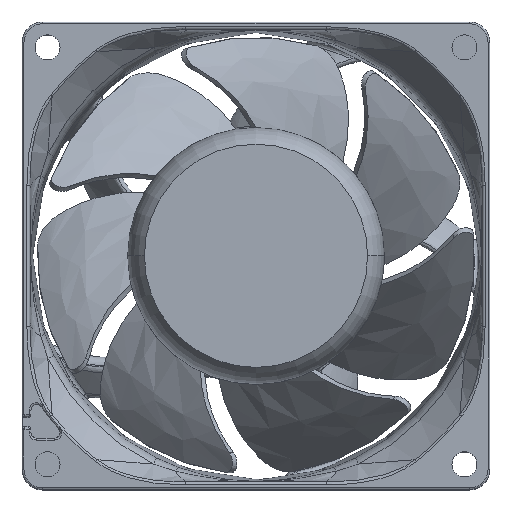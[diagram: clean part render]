
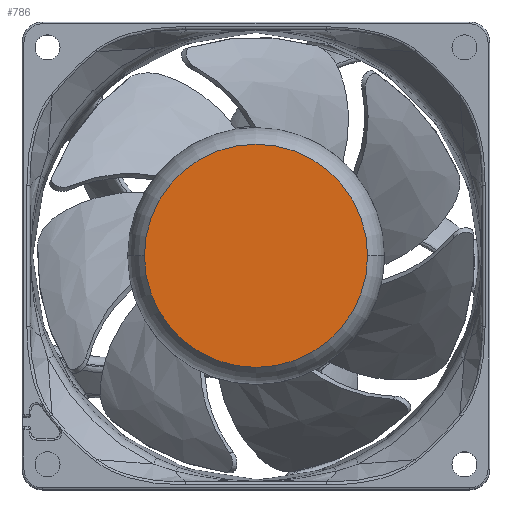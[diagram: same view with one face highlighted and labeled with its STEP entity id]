
A CAD part, top view. The second image highlights one B-rep face of the part: STEP entity #786.
In plain terms, the highlighted planar face has unit normal (0, 0, 1).
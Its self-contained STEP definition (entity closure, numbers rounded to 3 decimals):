
#774 = EDGE_CURVE ( 'NONE', #11469, #14833, #20165, .T. ) ;
#786 = ADVANCED_FACE ( 'NONE', ( #8616 ), #20329, .F. ) ;
#790 = DIRECTION ( 'NONE',  ( 0., 0., 1. ) ) ;
#1056 = AXIS2_PLACEMENT_3D ( 'NONE', #23329, #10378, #25470 ) ;
#1713 = AXIS2_PLACEMENT_3D ( 'NONE', #5169, #22464, #9522 ) ;
#3577 = ORIENTED_EDGE ( 'NONE', *, *, #11112, .T. ) ;
#3627 = CARTESIAN_POINT ( 'NONE',  ( -19.141, 0., 37. ) ) ;
#5169 = CARTESIAN_POINT ( 'NONE',  ( 0., 0., 37. ) ) ;
#8616 = FACE_OUTER_BOUND ( 'NONE', #10691, .T. ) ;
#9522 = DIRECTION ( 'NONE',  ( -1., 0., 0. ) ) ;
#10378 = DIRECTION ( 'NONE',  ( 0., 0., 1. ) ) ;
#10691 = EDGE_LOOP ( 'NONE', ( #3577, #18976 ) ) ;
#11112 = EDGE_CURVE ( 'NONE', #14833, #11469, #25966, .T. ) ;
#11469 = VERTEX_POINT ( 'NONE', #3627 ) ;
#13755 = CARTESIAN_POINT ( 'NONE',  ( 0., 0., 37. ) ) ;
#14833 = VERTEX_POINT ( 'NONE', #20280 ) ;
#15953 = DIRECTION ( 'NONE',  ( 1., 0., 0. ) ) ;
#18976 = ORIENTED_EDGE ( 'NONE', *, *, #774, .T. ) ;
#20165 = CIRCLE ( 'NONE', #23984, 19.141 ) ;
#20280 = CARTESIAN_POINT ( 'NONE',  ( 19.141, 0., 37. ) ) ;
#20329 = PLANE ( 'NONE',  #1713 ) ;
#22464 = DIRECTION ( 'NONE',  ( 0., 0., -1. ) ) ;
#23329 = CARTESIAN_POINT ( 'NONE',  ( 0., 0., 37. ) ) ;
#23984 = AXIS2_PLACEMENT_3D ( 'NONE', #13755, #790, #15953 ) ;
#25470 = DIRECTION ( 'NONE',  ( 1., 0., 0. ) ) ;
#25966 = CIRCLE ( 'NONE', #1056, 19.141 ) ;
